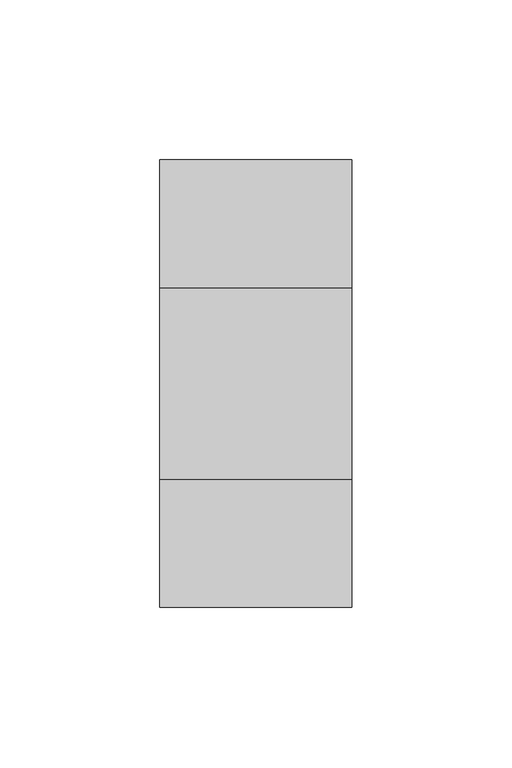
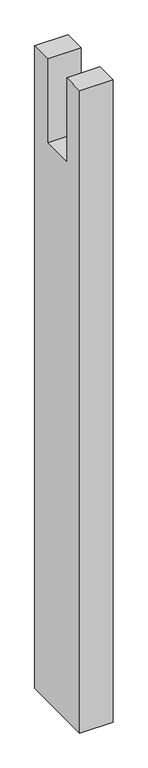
"""IFC4 building model written with IfcOpenShell, lengths in millimetres: proxy geometry, Modelos genéricos 33 : Modelos genéricos 11."""

from ifc_helpers import new_model, si_unit, frame, origin, place, context, project, spatial, polyline, outline, extrude, source, transform, mapped, element, save


def generic_models_0a93a73b(model_context):
    return source(origin(), model_context, "Body", "SweptSolid", [
        extrude(outline(polyline([(2018.6238165, 3160.0), (1878.6238165, 3160.0), (1878.6238165, 4380.0), (1918.6238165, 4380.0), (1918.6238165, 4220.0), (1978.6238165, 4220.0), (1978.6238165, 4380.0), (2018.6238165, 4380.0), (2018.6238165, 3160.0)])), frame((-9026.5527533, 0.0, 0.0), z_axis=(1.0, 0.0, 0.0), x_axis=(0.0, 1.0, 0.0)), (0.0, 0.0, 1.0), 60.0),
    ])


if __name__ == "__main__":
    model = new_model("IFC4")
    model_context = context("Model", 3, world=origin())
    ifc_project = project(units=[si_unit("LENGTHUNIT", "METRE", prefix="MILLI")], contexts=[model_context])
    site = spatial("IfcSite", under=ifc_project)
    building = spatial("IfcBuilding", under=site)
    placement = place(None, origin())
    generic_models_shape = generic_models_0a93a73b(model_context)
    element("IfcBuildingElementProxy", 1, Name="Modelos genéricos 33 : Modelos genéricos 11", ObjectType="Modelos genéricos 33 : Modelos genéricos 11", at=placement, inside=building, context=model_context, shape_type="MappedRepresentation", body=[
        mapped(generic_models_shape, transform((0.0, 0.0, 0.0), x_axis=(1.0, 0.0, 0.0), y_axis=(0.0, 1.0, 0.0), z_axis=(0.0, 0.0, 1.0))),
    ])
    save(model, "model.ifc")
